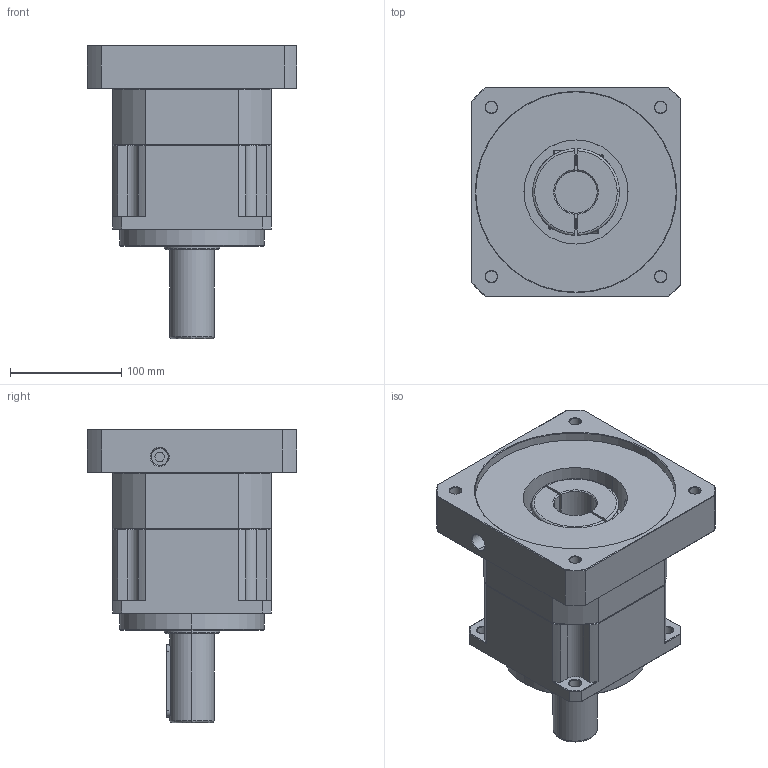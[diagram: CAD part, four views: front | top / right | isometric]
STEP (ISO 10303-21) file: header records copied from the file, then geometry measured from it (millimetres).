
FILE_DESCRIPTION (( 'STEP AP214' ), '1' );
FILE_NAME ('ZPB142-L1-P1-S2-38-180-215-M12.step', '2024-07-05T00:16:37', ( 'Windows 蚚誧' ), ( 'Organization' ), 'SwSTEP 2.0', 'SolidWorks 2016', '' );
FILE_SCHEMA (( 'AUTOMOTIVE_DESIGN' ));
Length unit declared in the file: millimetre
Products named in the file (1): ZPB142-L1-P1-S2-38-180-215-M12
Bounding box: 188 x 188 x 263.5 mm (x, y, z)
Surface area: 244419.7 mm2 (no closed solid volume)
Topology: 0 solids, 37 shells, 1769 faces, 4724 edges, 3030 vertices
Faces by surface type: plane 912, bspline 383, cone 263, cylinder 211
Full cylindrical faces by diameter (mm): 14 x1
Entity records: 99890 total; most frequent: CARTESIAN_POINT 50502, ORIENTED_EDGE 9423, DIRECTION 7228, EDGE_CURVE 4723, LINE 3138, VECTOR 3138, VERTEX_POINT 3030, AXIS2_PLACEMENT_3D 2045
